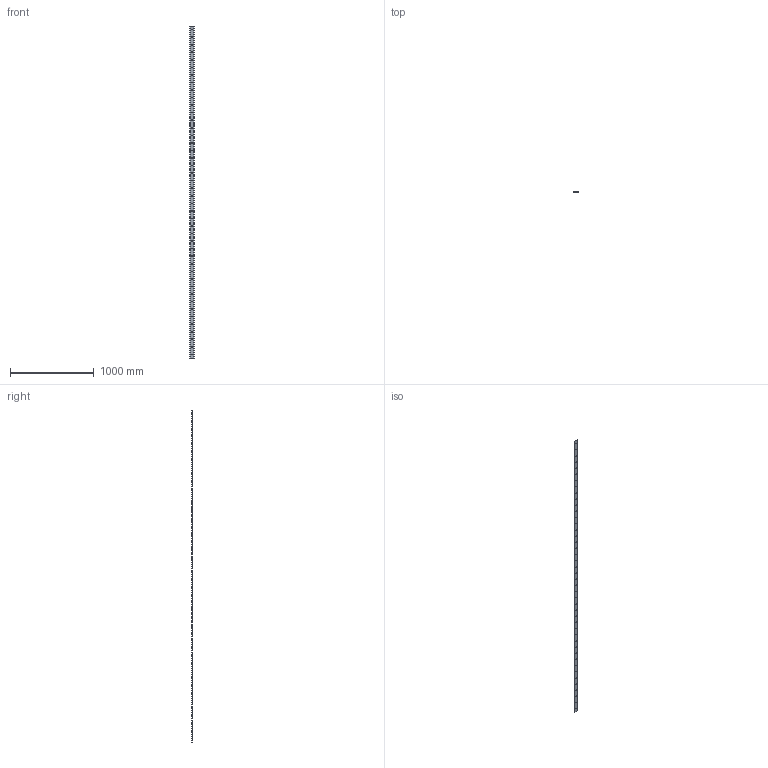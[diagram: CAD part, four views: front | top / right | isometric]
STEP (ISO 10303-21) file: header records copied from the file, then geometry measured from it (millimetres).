
FILE_DESCRIPTION(('STEP AP203'),'1');
FILE_NAME('flat_slide_sss503956.stp','2021-10-13T02:18:49',('TraceParts'),('TraceParts S.A.'),'Spatial InterOp 3D',' ',' ');
FILE_SCHEMA(('CONFIG_CONTROL_DESIGN'));
Length unit declared in the file: millimetre
Products named in the file (1): 1
Bounding box: 49.7 x 4.7 x 3956 mm (x, y, z)
Volume: 872592.7 mm3; surface area: 409867.5 mm2
Topology: 1 solids, 1 shells, 100 faces, 294 edges, 196 vertices
Faces by surface type: cylinder 92, plane 8
Entity records: 3662 total; most frequent: DIRECTION 680, CARTESIAN_POINT 591, ORIENTED_EDGE 588, EDGE_CURVE 294, AXIS2_PLACEMENT_3D 285, VERTEX_POINT 196, EDGE_LOOP 188, CIRCLE 184
